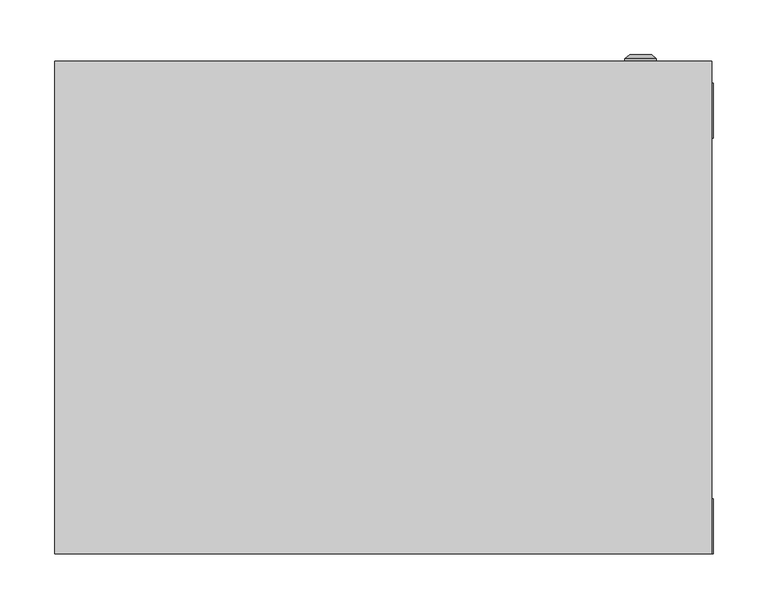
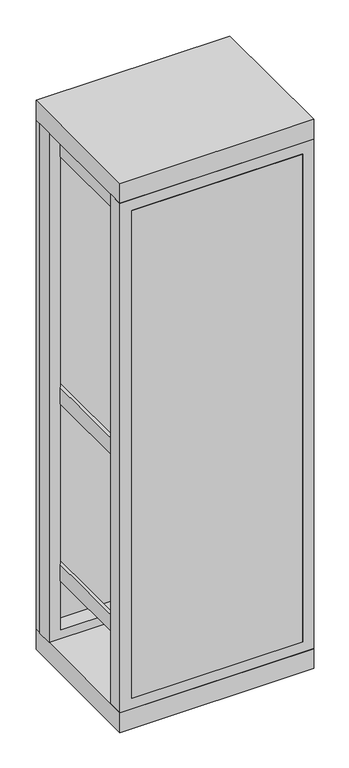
"""IFC4 building model written with IfcOpenShell, lengths in millimetres: proxy geometry, ВРУ-1 : ВРУ-1_1800х600х450."""

from ifc_helpers import new_model, si_unit, frame, origin, origin_with_axes, place, context, project, spatial, polyline, circle_curve, outline, extrude, source, transform, mapped, element, save
from ifc_brep_helpers import plane_surface, cylinder_surface, revolved_surface, advanced_brep


def electrical_equipment_4e84e6ac(model_context):
    return source(origin(), model_context, "Body", "SolidModel", [
        extrude(outline(polyline([(265.8707865, 0.0), (-263.3426966, 0.0), (-263.3426966, 10.0), (265.8707865, 10.0), (265.8707865, 0.0)])), frame((0.0, 0.0, 99.1378449), z_axis=(0.0, 0.0, 1.0), x_axis=(1.0, 0.0, 0.0)), (0.0, 0.0, 1.0), 1599.6160511),
        extrude(outline(polyline([(-255.8707865, 125.9831461), (-215.8707865, 125.9831461), (-215.8707865, 93.1179775), (-218.8707865, 93.1179775), (-218.8707865, 122.9831461), (-252.8707865, 122.9831461), (-252.8707865, 93.1179775), (-255.8707865, 93.1179775), (-255.8707865, 125.9831461)])), frame((0.0, 0.0, 189.6067416), z_axis=(0.0, 0.0, 1.0), x_axis=(1.0, 0.0, 0.0)), (0.0, 0.0, 1.0), 1545.3932584),
        extrude(outline(polyline([(215.8707865, 125.9831461), (255.8707865, 125.9831461), (255.8707865, 93.1179775), (252.8707865, 93.1179775), (252.8707865, 122.9831461), (218.8707865, 122.9831461), (218.8707865, 93.1179775), (215.8707865, 93.1179775), (215.8707865, 125.9831461)])), frame((0.0, 0.0, 189.6067416), z_axis=(0.0, 0.0, 1.0), x_axis=(1.0, 0.0, 0.0)), (0.0, 0.0, 1.0), 1545.3932584),
        extrude(outline(polyline([(-255.8707865, 10.0), (-265.8707865, 10.0), (-265.8707865, 430.0), (-255.8707865, 430.0), (-255.8707865, 10.0)])), frame((0.0, 0.0, 1645.5966059), z_axis=(0.0, 0.0, 1.0), x_axis=(1.0, 0.0, 0.0)), (0.0, 0.0, 1.0), 53.0898876),
        extrude(outline(polyline([(265.8707865, 10.0), (255.8707865, 10.0), (255.8707865, 430.0), (265.8707865, 430.0), (265.8707865, 10.0)])), frame((0.0, 0.0, 1645.5966059), z_axis=(0.0, 0.0, 1.0), x_axis=(1.0, 0.0, 0.0)), (0.0, 0.0, 1.0), 53.0898876),
        extrude(outline(polyline([(-255.8707865, 10.0), (-265.8707865, 10.0), (-265.8707865, 430.0), (-255.8707865, 430.0), (-255.8707865, 10.0)])), frame((0.0, 0.0, 255.5966059), z_axis=(0.0, 0.0, 1.0), x_axis=(1.0, 0.0, 0.0)), (0.0, 0.0, 1.0), 53.0898876),
        extrude(outline(polyline([(265.8707865, 10.0), (255.8707865, 10.0), (255.8707865, 430.0), (265.8707865, 430.0), (265.8707865, 10.0)])), frame((0.0, 0.0, 255.5966059), z_axis=(0.0, 0.0, 1.0), x_axis=(1.0, 0.0, 0.0)), (0.0, 0.0, 1.0), 53.0898876),
        extrude(outline(polyline([(-255.8707865, 10.0), (-265.8707865, 10.0), (-265.8707865, 430.0), (-255.8707865, 430.0), (-255.8707865, 10.0)])), frame((0.0, 0.0, 835.5966059), z_axis=(0.0, 0.0, 1.0), x_axis=(1.0, 0.0, 0.0)), (0.0, 0.0, 1.0), 53.0898876),
        extrude(outline(polyline([(265.8707865, 0.0), (255.8707865, 0.0), (255.8707865, 430.0), (265.8707865, 430.0), (265.8707865, 0.0)])), frame((0.0, 0.0, 835.5966059), z_axis=(0.0, 0.0, 1.0), x_axis=(1.0, 0.0, 0.0)), (0.0, 0.0, 1.0), 53.0898876),
        extrude(outline(polyline([(1734.1471543, -300.0), (65.0187804, -300.0), (65.0187804, 301.2640449), (1734.1471543, 301.2640449), (1734.1471543, -300.0)]), holes=[polyline([(99.1378449, 265.8707865), (99.1378449, -263.3426966), (1698.7538959, -263.3426966), (1698.7538959, 265.8707865), (99.1378449, 265.8707865)])]), frame((0.0, 0.0, 0.0), z_axis=(0.0, 1.0, 0.0), x_axis=(0.0, 0.0, 1.0)), (0.0, 0.0, 1.0), 50.0),
        extrude(outline(polyline([(1735.0, -300.0), (65.0187804, -300.0), (65.0187804, 301.2640449), (1735.0, 301.2640449), (1735.0, -300.0)]), holes=[polyline([(93.3701084, 265.8707865), (93.3701084, -263.3426966), (1692.9861595, -263.3426966), (1692.9861595, 265.8707865), (93.3701084, 265.8707865)])]), frame((0.0, 380.0, 0.0), z_axis=(0.0, 1.0, 0.0), x_axis=(0.0, 0.0, 1.0)), (0.0, 0.0, 1.0), 50.0),
        extrude(outline(polyline([(300.0067809, 450.0), (300.0067809, 0.0), (-300.0, 0.0), (-300.0, 450.0), (300.0067809, 450.0)])), frame((0.0, 0.0, 1735.0), z_axis=(0.0, 0.0, 1.0), x_axis=(1.0, 0.0, 0.0)), (0.0, 0.0, 1.0), 65.0),
        advanced_brep(
        [(220.669873, 450.0, 415.0), (249.330127, 450.0, 415.0), (235.0, 450.0, 415.0), (220.669873, 452.366592, 415.0), (249.330127, 452.366592, 415.0), (225.0, 456.0, 415.0), (245.0, 456.0, 415.0), (233.1080471, 456.0, 415.0), (236.8919529, 456.0, 415.0), (233.1080471, 454.9822294, 415.0), (236.8919529, 454.9822294, 415.0), (235.0, 454.9822294, 415.0)],
        [
            (0, 1, circle_curve(frame((235.0, 450.0, 415.0), z_axis=(0.0, -1.0, 0.0), x_axis=(1.0, 0.0, 0.0)), 14.330127)),
            (1, 2),
            (2, 0),
            (1, 0, circle_curve(frame((235.0, 450.0, 415.0), z_axis=(0.0, -1.0, 0.0), x_axis=(1.0, 0.0, 0.0)), 14.330127)),
            (3, 4, circle_curve(frame((235.0, 452.366592, 415.0), z_axis=(0.0, -1.0, 0.0), x_axis=(1.0, 0.0, 0.0)), 14.330127)),
            (4, 1),
            (0, 3),
            (4, 3, circle_curve(frame((235.0, 452.366592, 415.0), z_axis=(0.0, -1.0, 0.0), x_axis=(1.0, 0.0, 0.0)), 14.330127)),
            (5, 6, circle_curve(frame((235.0, 456.0, 415.0), z_axis=(0.0, -1.0, 0.0), x_axis=(1.0, 0.0, 0.0)), 10.0)),
            (6, 4),
            (3, 5),
            (6, 5, circle_curve(frame((235.0, 456.0, 415.0), z_axis=(0.0, -1.0, 0.0), x_axis=(1.0, 0.0, 0.0)), 10.0)),
            (7, 8, circle_curve(frame((235.0, 456.0, 415.0), z_axis=(0.0, -1.0, 0.0), x_axis=(1.0, 0.0, 0.0)), 1.8919529)),
            (8, 6),
            (5, 7),
            (8, 7, circle_curve(frame((235.0, 456.0, 415.0), z_axis=(0.0, -1.0, 0.0), x_axis=(1.0, 0.0, 0.0)), 1.8919529)),
            (9, 10, circle_curve(frame((235.0, 454.9822294, 415.0), z_axis=(0.0, -1.0, 0.0), x_axis=(1.0, 0.0, 0.0)), 1.8919529)),
            (10, 8),
            (7, 9),
            (10, 9, circle_curve(frame((235.0, 454.9822294, 415.0), z_axis=(0.0, -1.0, 0.0), x_axis=(1.0, 0.0, 0.0)), 1.8919529)),
            (11, 10),
            (9, 11),
        ],
        [
            plane_surface(frame((235.0, 450.0, 415.0), z_axis=(0.0, -1.0, 0.0), x_axis=(1.0, 0.0, 0.0))),
            cylinder_surface(frame((235.0, 463.1348851, 415.0), z_axis=(0.0, 1.0, 0.0), x_axis=(1.0, 0.0, 0.0)), 14.330127),
            revolved_surface(polyline([(249.330127, 452.366592, 415.0), (245.0, 456.0, 415.0)]), (235.0, 463.1348851, 415.0), (0.0, 1.0, 0.0)),
            plane_surface(frame((235.0, 456.0, 415.0), z_axis=(0.0, 1.0, 0.0), x_axis=(1.0, 0.0, 0.0))),
            revolved_surface(polyline([(236.8919529, 456.0, 415.0), (236.8919529, 454.9822294, 415.0)]), (235.0, 463.1348851, 415.0), (0.0, 1.0, 0.0)),
            plane_surface(frame((235.0, 454.9822294, 415.0), z_axis=(0.0, 1.0, 0.0), x_axis=(1.0, 0.0, 0.0))),
        ],
        [
            (0, [[1, 2, 3]]),
            (0, [[4, -3, -2]]),
            (1, [[5, 6, -1, 7]]),
            (1, [[8, -7, -4, -6]]),
            (2, [[9, 10, -5, 11]]),
            (2, [[12, -11, -8, -10]]),
            (3, [[13, 14, -9, 15]]),
            (3, [[16, -15, -12, -14]]),
            (4, [[17, 18, -13, 19]]),
            (4, [[20, -19, -16, -18]]),
            (5, [[21, -17, 22]]),
            (5, [[-22, -20, -21]]),
        ],
    ),
        advanced_brep(
        [(220.669873, 450.0, 1385.0), (249.330127, 450.0, 1385.0), (235.0, 450.0, 1385.0), (220.669873, 452.366592, 1385.0), (249.330127, 452.366592, 1385.0), (225.0, 456.0, 1385.0), (245.0, 456.0, 1385.0), (233.1080471, 456.0, 1385.0), (236.8919529, 456.0, 1385.0), (233.1080471, 454.9822294, 1385.0), (236.8919529, 454.9822294, 1385.0), (235.0, 454.9822294, 1385.0)],
        [
            (0, 1, circle_curve(frame((235.0, 450.0, 1385.0), z_axis=(0.0, -1.0, 0.0), x_axis=(1.0, 0.0, 0.0)), 14.330127)),
            (1, 2),
            (2, 0),
            (1, 0, circle_curve(frame((235.0, 450.0, 1385.0), z_axis=(0.0, -1.0, 0.0), x_axis=(1.0, 0.0, 0.0)), 14.330127)),
            (3, 4, circle_curve(frame((235.0, 452.366592, 1385.0), z_axis=(0.0, -1.0, 0.0), x_axis=(1.0, 0.0, 0.0)), 14.330127)),
            (4, 1),
            (0, 3),
            (4, 3, circle_curve(frame((235.0, 452.366592, 1385.0), z_axis=(0.0, -1.0, 0.0), x_axis=(1.0, 0.0, 0.0)), 14.330127)),
            (5, 6, circle_curve(frame((235.0, 456.0, 1385.0), z_axis=(0.0, -1.0, 0.0), x_axis=(1.0, 0.0, 0.0)), 10.0)),
            (6, 4),
            (3, 5),
            (6, 5, circle_curve(frame((235.0, 456.0, 1385.0), z_axis=(0.0, -1.0, 0.0), x_axis=(1.0, 0.0, 0.0)), 10.0)),
            (7, 8, circle_curve(frame((235.0, 456.0, 1385.0), z_axis=(0.0, -1.0, 0.0), x_axis=(1.0, 0.0, 0.0)), 1.8919529)),
            (8, 6),
            (5, 7),
            (8, 7, circle_curve(frame((235.0, 456.0, 1385.0), z_axis=(0.0, -1.0, 0.0), x_axis=(1.0, 0.0, 0.0)), 1.8919529)),
            (9, 10, circle_curve(frame((235.0, 454.9822294, 1385.0), z_axis=(0.0, -1.0, 0.0), x_axis=(1.0, 0.0, 0.0)), 1.8919529)),
            (10, 8),
            (7, 9),
            (10, 9, circle_curve(frame((235.0, 454.9822294, 1385.0), z_axis=(0.0, -1.0, 0.0), x_axis=(1.0, 0.0, 0.0)), 1.8919529)),
            (11, 10),
            (9, 11),
        ],
        [
            plane_surface(frame((235.0, 450.0, 1385.0), z_axis=(0.0, -1.0, 0.0), x_axis=(1.0, 0.0, 0.0))),
            cylinder_surface(frame((235.0, 463.1348851, 1385.0), z_axis=(0.0, 1.0, 0.0), x_axis=(1.0, 0.0, 0.0)), 14.330127),
            revolved_surface(polyline([(249.330127, 452.366592, 1385.0), (245.0, 456.0, 1385.0)]), (235.0, 463.1348851, 1385.0), (0.0, 1.0, 0.0)),
            plane_surface(frame((235.0, 456.0, 1385.0), z_axis=(0.0, 1.0, 0.0), x_axis=(1.0, 0.0, 0.0))),
            revolved_surface(polyline([(236.8919529, 456.0, 1385.0), (236.8919529, 454.9822294, 1385.0)]), (235.0, 463.1348851, 1385.0), (0.0, 1.0, 0.0)),
            plane_surface(frame((235.0, 454.9822294, 1385.0), z_axis=(0.0, 1.0, 0.0), x_axis=(1.0, 0.0, 0.0))),
        ],
        [
            (0, [[1, 2, 3]]),
            (0, [[4, -3, -2]]),
            (1, [[5, 6, -1, 7]]),
            (1, [[8, -7, -4, -6]]),
            (2, [[9, 10, -5, 11]]),
            (2, [[12, -11, -8, -10]]),
            (3, [[13, 14, -9, 15]]),
            (3, [[16, -15, -12, -14]]),
            (4, [[17, 18, -13, 19]]),
            (4, [[20, -19, -16, -18]]),
            (5, [[21, -17, 22]]),
            (5, [[-22, -20, -21]]),
        ],
    ),
        extrude(outline(polyline([(300.0067809, 450.0), (300.0067809, 0.0), (-300.0, 0.0), (-300.0, 450.0), (300.0067809, 450.0)])), origin_with_axes(), (0.0, 0.0, 1.0), 65.0187804),
        extrude(outline(polyline([(300.0, 430.0), (-300.0, 430.0), (-300.0, 450.0), (300.0, 450.0), (300.0, 430.0)])), frame((0.0, 0.0, 65.0187804), z_axis=(0.0, 0.0, 1.0), x_axis=(1.0, 0.0, 0.0)), (0.0, 0.0, 1.0), 1669.9812196),
    ])


if __name__ == "__main__":
    model = new_model("IFC4")
    model_context = context("Model", 3, world=origin())
    ifc_project = project(units=[si_unit("LENGTHUNIT", "METRE", prefix="MILLI")], contexts=[model_context])
    site = spatial("IfcSite", under=ifc_project)
    building = spatial("IfcBuilding", under=site)
    placement = place(None, origin())
    electrical_equipment_shape = electrical_equipment_4e84e6ac(model_context)
    element("IfcBuildingElementProxy", 1, Name="ВРУ-1 : ВРУ-1_1800х600х450", ObjectType="ВРУ-1 : ВРУ-1_1800х600х450", at=placement, inside=building, context=model_context, shape_type="MappedRepresentation", body=[
        mapped(electrical_equipment_shape, transform((0.0, 0.0, 0.0), x_axis=(1.0, 0.0, 0.0), y_axis=(0.0, 1.0, 0.0), z_axis=(0.0, 0.0, 1.0))),
    ])
    save(model, "model.ifc")
